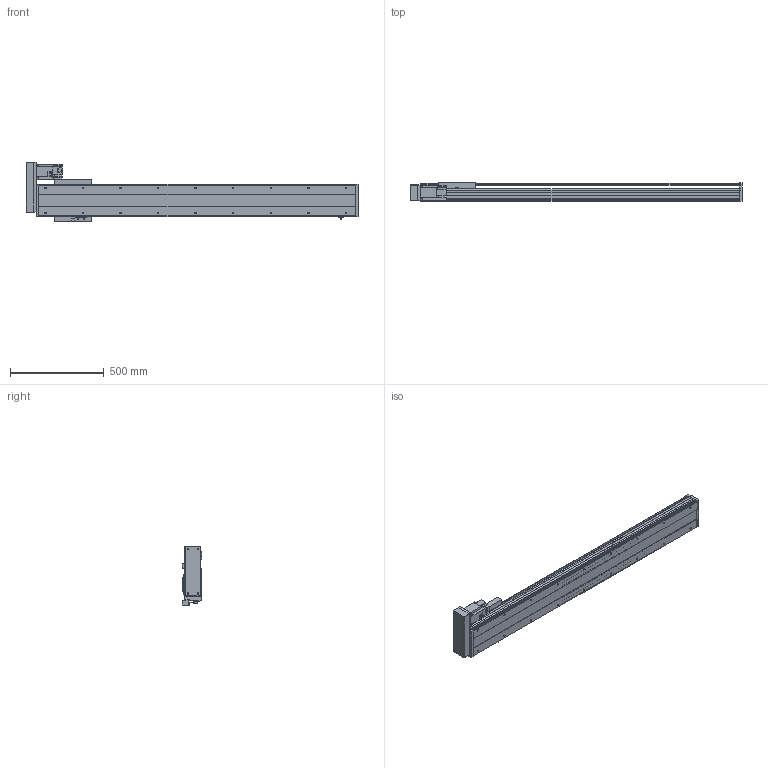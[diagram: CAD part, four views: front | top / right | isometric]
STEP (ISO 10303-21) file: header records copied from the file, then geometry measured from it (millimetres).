
FILE_DESCRIPTION(/* description */ ('STEP AP214'),/* implementation_level */ '2;1');
FILE_NAME(/* name */ 'PSS200-L10-S1350-BL-T75-C1-N(0)',/* time_stamp */ '2022-06-06T04:51:03+02:00',/* author */ ('License CC BY-ND 4.0'),/* organization */ ('CADENAS'),/* preprocessor_version */ 'ST-DEVELOPER v18.102',/* originating_system */ 'PARTsolutions',/* authorisation */ ' ');
FILE_SCHEMA (('AUTOMOTIVE_DESIGN {1 0 10303 214 3 1 1}'));
Length unit declared in the file: millimetre
Products named in the file (8): PSS200-L10-S1350-BL-T75-C1-N(0); PSS200-S1350-BL-N_S; T75-p1; PSS200BL-N_h; PSS200-N_sensor; PSS200-BL-C1-N_sl; PSS200-N_Q; PSS200-S1350-BL-C1-N_body
Assembly tree (9 placements, depth 2):
  PSS200-L10-S1350-BL-T75-C1-N(0)
    PSS200-S1350-BL-N_S
    T75-p1
    PSS200BL-N_h
    PSS200-N_sensor  x3
    PSS200-BL-C1-N_sl
    PSS200-N_Q
    PSS200-S1350-BL-C1-N_body
Bounding box: 1766.85 x 105.3 x 317.86 mm (x, y, z)
Volume: 10980029.8 mm3; surface area: 2703934.4 mm2
Topology: 9 solids, 9 shells, 616 faces, 1645 edges, 1086 vertices
Faces by surface type: plane 466, cylinder 120, cone 26, sphere 4
Full cylindrical faces by diameter (mm): 4 x2, 4.5 x4, 6 x7, 6.647 x22, 7.4 x4, 8 x8, 10 x6, 25 x1, 40 x1, 67 x1
Entity records: 17049 total; most frequent: CARTESIAN_POINT 2923, DIRECTION 2832, ORIENTED_EDGE 2774, EDGE_CURVE 1387, LINE 1090, VECTOR 1090, VERTEX_POINT 962, AXIS2_PLACEMENT_3D 871
